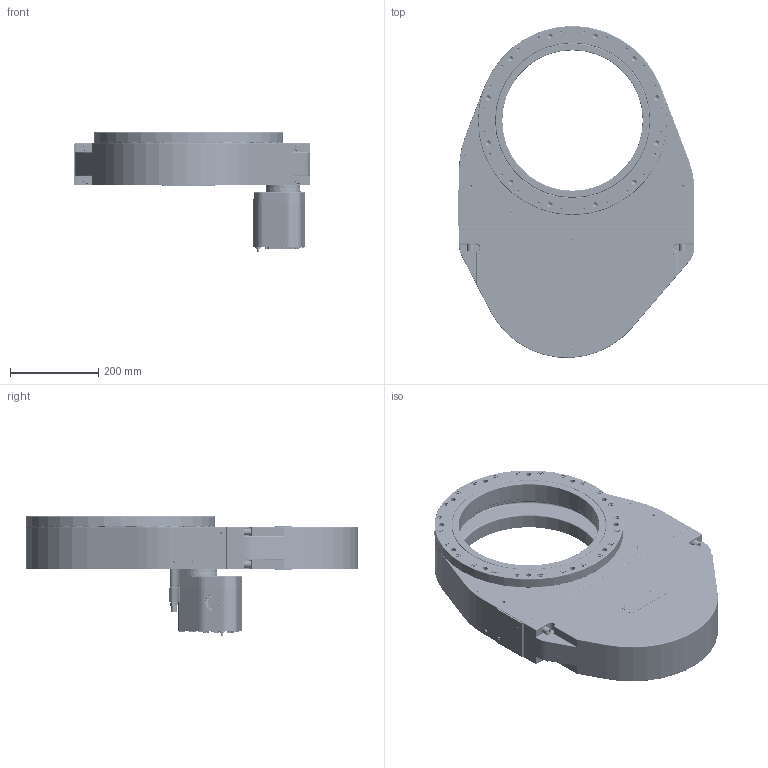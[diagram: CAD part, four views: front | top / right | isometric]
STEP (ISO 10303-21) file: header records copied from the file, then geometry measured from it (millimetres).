
FILE_DESCRIPTION(/* description */ (''),/* implementation_level */ '2;1');
FILE_NAME(/* name */ '1003722976_203.stp',/* time_stamp */ '2024-06-28T14:47:46+08:00',/* author */ (''),/* organization */ (''),/* preprocessor_version */ 'ST-DEVELOPER v19.3',/* originating_system */ 'SIEMENS PLM Software NX2212.6000',/* authorisation */ '');
FILE_SCHEMA (('AP203_CONFIGURATION_CONTROLLED_3D_DESIGN_OF_MECHANICAL_PARTS_AND_ASSEMBLIES_MIM_LF { 1 0 10303 403 2 1 2}'));
Products named in the file (50): 915542; 1062830; 1062211_38223ID; 1062217; n-6053-409.2; n-6171-408.1; 507510; 930887; 1062837; 1062205; 223868.1; 1062209; 1062215; 915758; 1062236_38259ID; 325243.3; 950466; 957512; N-6091-505.1; n-6090-114; N-6090-119.1; 259932_3.2; 259932_2.3; 259932_1.3; 259932_4.2; 1062232; 904475; 1062241; 736900; 877855; 219865.4; 219875.2; 444307; 965135; 958026; 366217; 930837; 957510; 224833.1; 1062829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
Assembly tree (124 placements, depth 5):
  1297582
    224833.1  x24
    917054_NX-ARRAGMNTgeschlossen
      877855
      736900  x4
      1062237
        1062236_38259ID
      1062241
      904475
      1062232
    957510
    259932.6_NX-ARRAGMNTZUSAMMENST1
      259932_4.2
      259932_1.3
      259932_2.3
      259932_3.2
    930837
    366217
    957513
      N-6090-119.1  x12
      n-6090-114  x4
      N-6091-505.1  x2
      957512
    950463
      N-6090-119.1  x12
      950466
    930908
      325243.3  x4
      1062219
        915758
        1062215
      917030
        1062209
        1062214_MODEL
          1062211_38223ID
        325243.3  x4
        223868.1  x2
        1062205
        1062829
          1062830
          915542
        1062837
        930887  x6
        507510
        n-6171-408.1
        n-6053-409.2
        1062217
        1062215
    958026  x2
    965135
    444307  x2
    219875.2  x4
    219865.4  x4
Bounding box: 536 x 751.79 x 270.5 mm (x, y, z)
Volume: 21724368.9 mm3; surface area: 1693295 mm2
Topology: 200 solids, 200 shells, 3414 faces, 8491 edges, 5681 vertices
Faces by surface type: plane 1847, cylinder 973, cone 307, torus 128, extrusion 97, bspline 41, sphere 21
Full cylindrical faces by diameter (mm): 0.7 x15, 1.1 x40, 2 x74, 2.5 x7, 2.9 x6, 3 x10, 3.2 x9, 3.25 x1, 3.26 x2, 3.3 x28, 3.5 x22, 3.96 x2, 4 x7, 4.02 x2, 4.05 x1, 4.16 x2, 4.2 x6, 4.3 x3, 4.5 x5, 4.725 x1, 4.96 x4, 4.991 x2, 5 x15, 5.075 x1, 5.1 x1, 5.165 x2, 5.9 x1, 5.991 x2, 6 x18, 6.035 x1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
Entity records: 84981 total; most frequent: CARTESIAN_POINT 18793, DIRECTION 11635, ORIENTED_EDGE 11242, EDGE_CURVE 5621, AXIS2_PLACEMENT_3D 4405, VERTEX_POINT 4279, EDGE_LOOP 3794, VECTOR 2825
